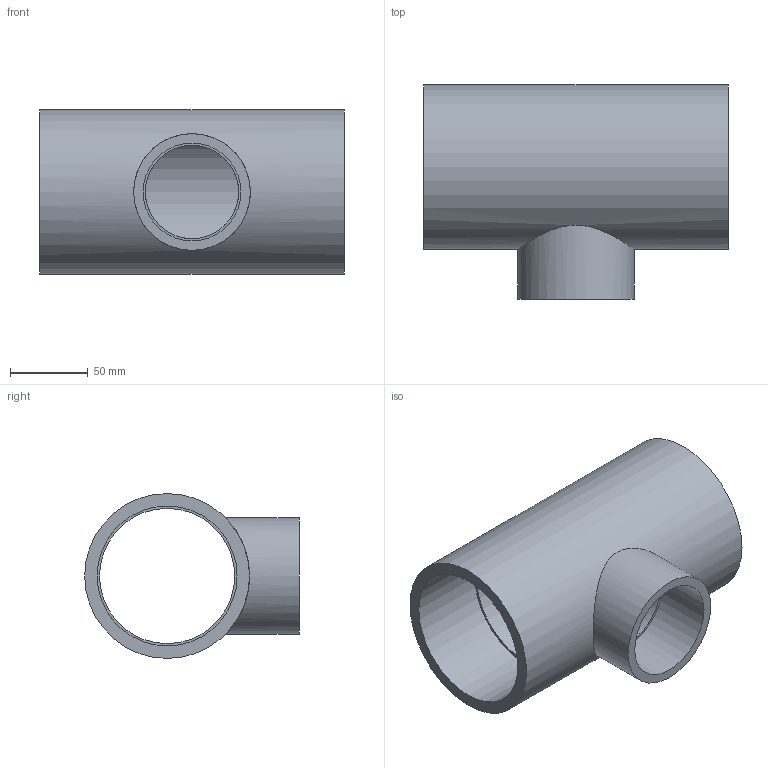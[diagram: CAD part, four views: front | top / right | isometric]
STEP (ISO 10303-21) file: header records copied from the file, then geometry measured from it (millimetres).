
FILE_DESCRIPTION(/* description */ ('PVC ti a 90° ridotto incollaggio metrico'),/* implementation_level */ '2;1');
FILE_NAME(/* name */ 'C:\Users\POLYPIPE\Desktop\DATASET INVENTOR\LIBRERIA EFFAST\RACCORDI 3DxWEB\RDR\3D_RDRTRD\3D_RDRTRD090G.stp',/* time_stamp */ '2018-01-19T15:48:58+01:00',/* author */ ('POLYPIPE'),/* organization */ ('Polypipe Italia s.r.l.'),/* preprocessor_version */ 'ST-DEVELOPER v16.1',/* originating_system */ 'Autodesk Inventor 2016',/* authorisation */ '');
FILE_SCHEMA (('CONFIG_CONTROL_DESIGN'));
Length unit declared in the file: millimetre
Products named in the file (1): 3D_RDRTRD
Bounding box: 196 x 138 x 106 mm (x, y, z)
Volume: 542974.8 mm3; surface area: 137928.8 mm2
Topology: 1 solids, 1 shells, 13 faces, 23 edges, 16 vertices
Faces by surface type: cylinder 7, plane 6
Full cylindrical faces by diameter (mm): 60 x1, 63 x1, 75 x1, 87 x1, 90 x2, 106 x1
Entity records: 430 total; most frequent: CARTESIAN_POINT 172, DIRECTION 52, EDGE_LOOP 28, ORIENTED_EDGE 28, AXIS2_PLACEMENT_3D 26, FACE_BOUND 15, VERTEX_POINT 14, EDGE_CURVE 14
